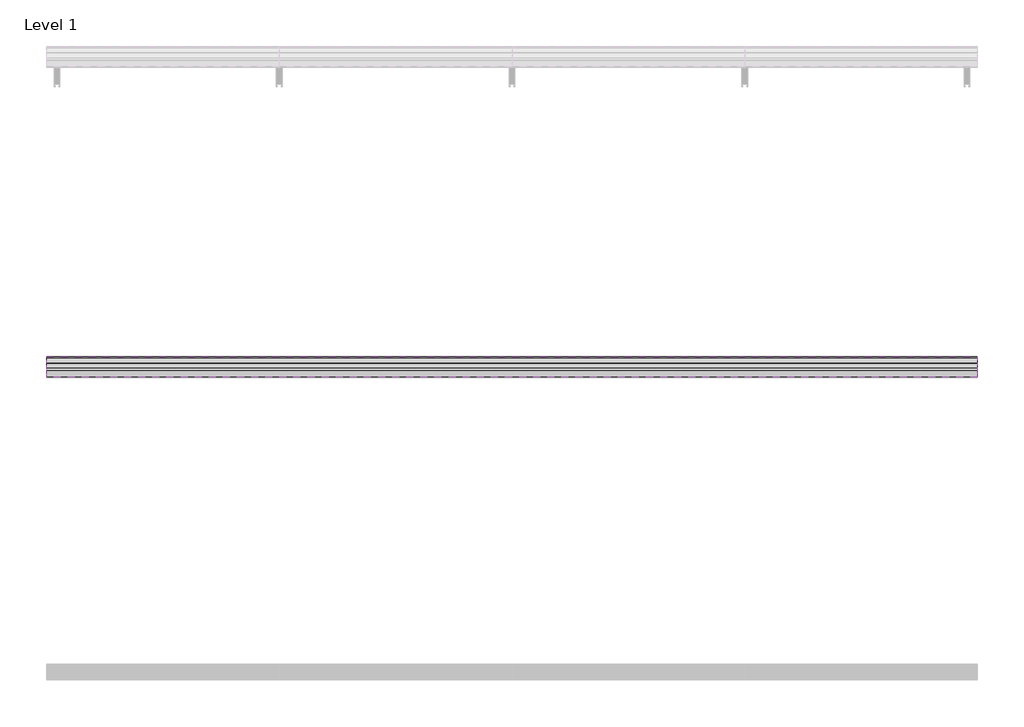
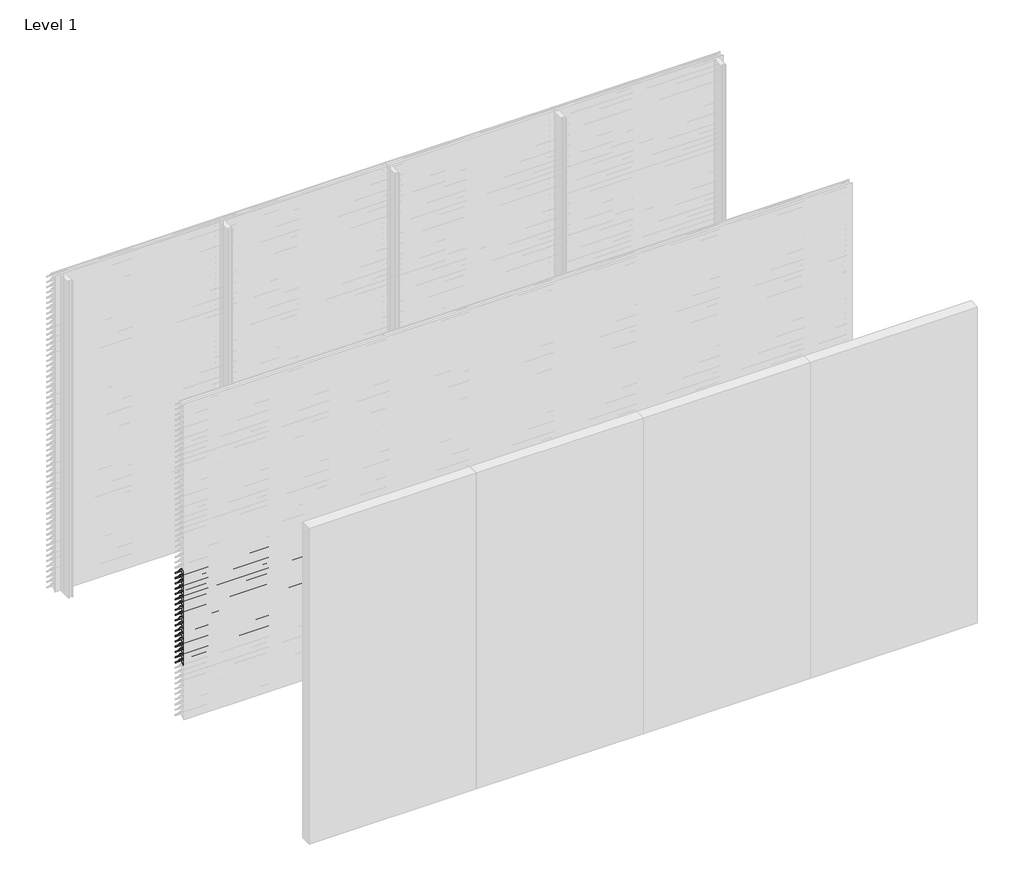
# One storey, part 22 of 173: 18 proxies.
"""IFC4 building model written with IfcOpenShell, lengths in millimetres."""

from ifc_helpers import new_model, si_unit, point, frame, frame_2d, origin, place, context, project, spatial, polyline, circle_curve, trimmed, segment, composite_curve, outline, extrude, element, save

model = new_model("IFC4")

# Units and contexts
model_context = context("Model", 3, world=origin())
ifc_project = project(units=[si_unit("LENGTHUNIT", "METRE", prefix="MILLI")], contexts=[model_context])

# Site, building, storey
site = spatial("IfcSite", under=ifc_project)
building = spatial("IfcBuilding", under=site)
storey = spatial("IfcBuildingStorey", under=building, Name="Level 1", Elevation=0.0)

# Proxies
placement = place(None, origin())
element("IfcBuildingElementProxy", 1, Name="Wall Sweeps", at=placement, inside=storey, context=model_context, shape_type="SweptSolid", body=[
    extrude(outline(composite_curve([segment(polyline([(-49998.0, 1359.1474905), (-49998.0, 1361.6227417)]), True, "CONTINUOUS"), segment(trimmed(circle_curve(frame_2d((-49951.2682172, 1316.2200208)), 65.1557103), [point((-49998.0, 1361.6227417))], [point((-49954.4014323, 1381.3003524))], False, "CARTESIAN"), True, "CONTINUOUS"), segment(polyline([(-49954.4014323, 1381.3003524), (-49934.8315836, 1381.3003524)]), True, "CONTINUOUS"), segment(trimmed(circle_curve(frame_2d((-49732.7329489, 1528.5533172)), 250.0545817), [point((-49934.8315836, 1381.3003524))], [point((-49941.4452143, 1390.8344583))], False, "CARTESIAN"), True, "CONTINUOUS"), segment(trimmed(circle_curve(frame_2d((-49953.2981792, 1385.1737835)), 13.1352966), [point((-49941.4452143, 1390.8344583))], [point((-49953.8171475, 1398.298824))], True, "CARTESIAN"), True, "CONTINUOUS"), segment(polyline([(-49953.8171475, 1398.298824), (-49953.8171475, 1400.0)]), True, "CONTINUOUS"), segment(trimmed(circle_curve(frame_2d((-49953.2981792, 1385.1737835)), 14.8352966), [point((-49953.8171475, 1400.0))], [point((-49939.9637661, 1391.6760487))], False, "CARTESIAN"), True, "CONTINUOUS"), segment(trimmed(circle_curve(frame_2d((-49732.7329489, 1528.5533172)), 248.3545817), [point((-49939.9637661, 1391.6760487))], [point((-49873.8787895, 1324.2059416))], True, "CARTESIAN"), True, "CONTINUOUS"), segment(trimmed(circle_curve(frame_2d((-49883.8147537, 1311.6649442)), 16.0), [point((-49873.8787895, 1324.2059416))], [point((-49867.8648347, 1310.4))], False, "CARTESIAN"), True, "CONTINUOUS"), segment(polyline([(-49867.8648347, 1310.4), (-49869.6712069, 1310.4)]), True, "CONTINUOUS"), segment(trimmed(circle_curve(frame_2d((-49883.8147537, 1311.6649442)), 14.2), [point((-49869.6712069, 1310.4))], [point((-49874.9518628, 1322.7594998))], True, "CARTESIAN"), True, "CONTINUOUS"), segment(trimmed(circle_curve(frame_2d((-49732.7329489, 1528.5533172)), 250.1545817), [point((-49874.9518628, 1322.7594998))], [point((-49933.7064024, 1379.6003524))], False, "CARTESIAN"), True, "CONTINUOUS"), segment(polyline([(-49933.7064024, 1379.6003524), (-49954.3602632, 1379.6003524)]), True, "CONTINUOUS"), segment(trimmed(circle_curve(frame_2d((-49951.2682172, 1316.2200208)), 63.4557103), [point((-49954.3602632, 1379.6003524))], [point((-49998.0, 1359.1474905))], True, "CARTESIAN"), True, "CONTINUOUS")], self_intersect=False)), frame((0.0, 0.0, 0.0), z_axis=(1.0, 0.0, 0.0), x_axis=(0.0, 1.0, 0.0)), (0.0, 0.0, 1.0), 6000.0),
])
element("IfcBuildingElementProxy", 2, Name="Wall Sweeps", at=placement, inside=storey, context=model_context, shape_type="SweptSolid", body=[
    extrude(outline(composite_curve([segment(polyline([(-49998.0, 1309.1474905), (-49998.0, 1311.6227417)]), True, "CONTINUOUS"), segment(trimmed(circle_curve(frame_2d((-49951.2682172, 1266.2200208)), 65.1557103), [point((-49998.0, 1311.6227417))], [point((-49954.4014323, 1331.3003524))], False, "CARTESIAN"), True, "CONTINUOUS"), segment(polyline([(-49954.4014323, 1331.3003524), (-49934.8315836, 1331.3003524)]), True, "CONTINUOUS"), segment(trimmed(circle_curve(frame_2d((-49732.7329489, 1478.5533172)), 250.0545817), [point((-49934.8315836, 1331.3003524))], [point((-49941.4452143, 1340.8344583))], False, "CARTESIAN"), True, "CONTINUOUS"), segment(trimmed(circle_curve(frame_2d((-49953.2981792, 1335.1737835)), 13.1352966), [point((-49941.4452143, 1340.8344583))], [point((-49953.8171475, 1348.298824))], True, "CARTESIAN"), True, "CONTINUOUS"), segment(polyline([(-49953.8171475, 1348.298824), (-49953.8171475, 1350.0)]), True, "CONTINUOUS"), segment(trimmed(circle_curve(frame_2d((-49953.2981792, 1335.1737835)), 14.8352966), [point((-49953.8171475, 1350.0))], [point((-49939.9637661, 1341.6760487))], False, "CARTESIAN"), True, "CONTINUOUS"), segment(trimmed(circle_curve(frame_2d((-49732.7329489, 1478.5533172)), 248.3545817), [point((-49939.9637661, 1341.6760487))], [point((-49873.8787895, 1274.2059416))], True, "CARTESIAN"), True, "CONTINUOUS"), segment(trimmed(circle_curve(frame_2d((-49883.8147537, 1261.6649442)), 16.0), [point((-49873.8787895, 1274.2059416))], [point((-49867.8648347, 1260.4))], False, "CARTESIAN"), True, "CONTINUOUS"), segment(polyline([(-49867.8648347, 1260.4), (-49869.6712069, 1260.4)]), True, "CONTINUOUS"), segment(trimmed(circle_curve(frame_2d((-49883.8147537, 1261.6649442)), 14.2), [point((-49869.6712069, 1260.4))], [point((-49874.9518628, 1272.7594998))], True, "CARTESIAN"), True, "CONTINUOUS"), segment(trimmed(circle_curve(frame_2d((-49732.7329489, 1478.5533172)), 250.1545817), [point((-49874.9518628, 1272.7594998))], [point((-49933.7064024, 1329.6003524))], False, "CARTESIAN"), True, "CONTINUOUS"), segment(polyline([(-49933.7064024, 1329.6003524), (-49954.3602632, 1329.6003524)]), True, "CONTINUOUS"), segment(trimmed(circle_curve(frame_2d((-49951.2682172, 1266.2200208)), 63.4557103), [point((-49954.3602632, 1329.6003524))], [point((-49998.0, 1309.1474905))], True, "CARTESIAN"), True, "CONTINUOUS")], self_intersect=False)), frame((0.0, 0.0, 0.0), z_axis=(1.0, 0.0, 0.0), x_axis=(0.0, 1.0, 0.0)), (0.0, 0.0, 1.0), 6000.0),
])
element("IfcBuildingElementProxy", 3, Name="Wall Sweeps", at=placement, inside=storey, context=model_context, shape_type="SweptSolid", body=[
    extrude(outline(composite_curve([segment(polyline([(-49998.0, 1259.1474905), (-49998.0, 1261.6227417)]), True, "CONTINUOUS"), segment(trimmed(circle_curve(frame_2d((-49951.2682172, 1216.2200208)), 65.1557103), [point((-49998.0, 1261.6227417))], [point((-49954.4014323, 1281.3003524))], False, "CARTESIAN"), True, "CONTINUOUS"), segment(polyline([(-49954.4014323, 1281.3003524), (-49934.8315836, 1281.3003524)]), True, "CONTINUOUS"), segment(trimmed(circle_curve(frame_2d((-49732.7329489, 1428.5533172)), 250.0545817), [point((-49934.8315836, 1281.3003524))], [point((-49941.4452143, 1290.8344583))], False, "CARTESIAN"), True, "CONTINUOUS"), segment(trimmed(circle_curve(frame_2d((-49953.2981792, 1285.1737835)), 13.1352966), [point((-49941.4452143, 1290.8344583))], [point((-49953.8171475, 1298.298824))], True, "CARTESIAN"), True, "CONTINUOUS"), segment(polyline([(-49953.8171475, 1298.298824), (-49953.8171475, 1300.0)]), True, "CONTINUOUS"), segment(trimmed(circle_curve(frame_2d((-49953.2981792, 1285.1737835)), 14.8352966), [point((-49953.8171475, 1300.0))], [point((-49939.9637661, 1291.6760487))], False, "CARTESIAN"), True, "CONTINUOUS"), segment(trimmed(circle_curve(frame_2d((-49732.7329489, 1428.5533172)), 248.3545817), [point((-49939.9637661, 1291.6760487))], [point((-49873.8787895, 1224.2059416))], True, "CARTESIAN"), True, "CONTINUOUS"), segment(trimmed(circle_curve(frame_2d((-49883.8147537, 1211.6649442)), 16.0), [point((-49873.8787895, 1224.2059416))], [point((-49867.8648347, 1210.4))], False, "CARTESIAN"), True, "CONTINUOUS"), segment(polyline([(-49867.8648347, 1210.4), (-49869.6712069, 1210.4)]), True, "CONTINUOUS"), segment(trimmed(circle_curve(frame_2d((-49883.8147537, 1211.6649442)), 14.2), [point((-49869.6712069, 1210.4))], [point((-49874.9518628, 1222.7594998))], True, "CARTESIAN"), True, "CONTINUOUS"), segment(trimmed(circle_curve(frame_2d((-49732.7329489, 1428.5533172)), 250.1545817), [point((-49874.9518628, 1222.7594998))], [point((-49933.7064024, 1279.6003524))], False, "CARTESIAN"), True, "CONTINUOUS"), segment(polyline([(-49933.7064024, 1279.6003524), (-49954.3602632, 1279.6003524)]), True, "CONTINUOUS"), segment(trimmed(circle_curve(frame_2d((-49951.2682172, 1216.2200208)), 63.4557103), [point((-49954.3602632, 1279.6003524))], [point((-49998.0, 1259.1474905))], True, "CARTESIAN"), True, "CONTINUOUS")], self_intersect=False)), frame((0.0, 0.0, 0.0), z_axis=(1.0, 0.0, 0.0), x_axis=(0.0, 1.0, 0.0)), (0.0, 0.0, 1.0), 6000.0),
])
element("IfcBuildingElementProxy", 4, Name="Wall Sweeps", at=placement, inside=storey, context=model_context, shape_type="SweptSolid", body=[
    extrude(outline(composite_curve([segment(polyline([(-49998.0, 1209.1474905), (-49998.0, 1211.6227417)]), True, "CONTINUOUS"), segment(trimmed(circle_curve(frame_2d((-49951.2682172, 1166.2200208)), 65.1557103), [point((-49998.0, 1211.6227417))], [point((-49954.4014323, 1231.3003524))], False, "CARTESIAN"), True, "CONTINUOUS"), segment(polyline([(-49954.4014323, 1231.3003524), (-49934.8315836, 1231.3003524)]), True, "CONTINUOUS"), segment(trimmed(circle_curve(frame_2d((-49732.7329489, 1378.5533172)), 250.0545817), [point((-49934.8315836, 1231.3003524))], [point((-49941.4452143, 1240.8344583))], False, "CARTESIAN"), True, "CONTINUOUS"), segment(trimmed(circle_curve(frame_2d((-49953.2981792, 1235.1737835)), 13.1352966), [point((-49941.4452143, 1240.8344583))], [point((-49953.8171475, 1248.298824))], True, "CARTESIAN"), True, "CONTINUOUS"), segment(polyline([(-49953.8171475, 1248.298824), (-49953.8171475, 1250.0)]), True, "CONTINUOUS"), segment(trimmed(circle_curve(frame_2d((-49953.2981792, 1235.1737835)), 14.8352966), [point((-49953.8171475, 1250.0))], [point((-49939.9637661, 1241.6760487))], False, "CARTESIAN"), True, "CONTINUOUS"), segment(trimmed(circle_curve(frame_2d((-49732.7329489, 1378.5533172)), 248.3545817), [point((-49939.9637661, 1241.6760487))], [point((-49873.8787895, 1174.2059416))], True, "CARTESIAN"), True, "CONTINUOUS"), segment(trimmed(circle_curve(frame_2d((-49883.8147537, 1161.6649442)), 16.0), [point((-49873.8787895, 1174.2059416))], [point((-49867.8648347, 1160.4))], False, "CARTESIAN"), True, "CONTINUOUS"), segment(polyline([(-49867.8648347, 1160.4), (-49869.6712069, 1160.4)]), True, "CONTINUOUS"), segment(trimmed(circle_curve(frame_2d((-49883.8147537, 1161.6649442)), 14.2), [point((-49869.6712069, 1160.4))], [point((-49874.9518628, 1172.7594998))], True, "CARTESIAN"), True, "CONTINUOUS"), segment(trimmed(circle_curve(frame_2d((-49732.7329489, 1378.5533172)), 250.1545817), [point((-49874.9518628, 1172.7594998))], [point((-49933.7064024, 1229.6003524))], False, "CARTESIAN"), True, "CONTINUOUS"), segment(polyline([(-49933.7064024, 1229.6003524), (-49954.3602632, 1229.6003524)]), True, "CONTINUOUS"), segment(trimmed(circle_curve(frame_2d((-49951.2682172, 1166.2200208)), 63.4557103), [point((-49954.3602632, 1229.6003524))], [point((-49998.0, 1209.1474905))], True, "CARTESIAN"), True, "CONTINUOUS")], self_intersect=False)), frame((0.0, 0.0, 0.0), z_axis=(1.0, 0.0, 0.0), x_axis=(0.0, 1.0, 0.0)), (0.0, 0.0, 1.0), 6000.0),
])
element("IfcBuildingElementProxy", 5, Name="Wall Sweeps", at=placement, inside=storey, context=model_context, shape_type="SweptSolid", body=[
    extrude(outline(composite_curve([segment(polyline([(-49998.0, 1159.1474905), (-49998.0, 1161.6227417)]), True, "CONTINUOUS"), segment(trimmed(circle_curve(frame_2d((-49951.2682172, 1116.2200208)), 65.1557103), [point((-49998.0, 1161.6227417))], [point((-49954.4014323, 1181.3003524))], False, "CARTESIAN"), True, "CONTINUOUS"), segment(polyline([(-49954.4014323, 1181.3003524), (-49934.8315836, 1181.3003524)]), True, "CONTINUOUS"), segment(trimmed(circle_curve(frame_2d((-49732.7329489, 1328.5533172)), 250.0545817), [point((-49934.8315836, 1181.3003524))], [point((-49941.4452143, 1190.8344583))], False, "CARTESIAN"), True, "CONTINUOUS"), segment(trimmed(circle_curve(frame_2d((-49953.2981792, 1185.1737835)), 13.1352966), [point((-49941.4452143, 1190.8344583))], [point((-49953.8171475, 1198.298824))], True, "CARTESIAN"), True, "CONTINUOUS"), segment(polyline([(-49953.8171475, 1198.298824), (-49953.8171475, 1200.0)]), True, "CONTINUOUS"), segment(trimmed(circle_curve(frame_2d((-49953.2981792, 1185.1737835)), 14.8352966), [point((-49953.8171475, 1200.0))], [point((-49939.9637661, 1191.6760487))], False, "CARTESIAN"), True, "CONTINUOUS"), segment(trimmed(circle_curve(frame_2d((-49732.7329489, 1328.5533172)), 248.3545817), [point((-49939.9637661, 1191.6760487))], [point((-49873.8787895, 1124.2059416))], True, "CARTESIAN"), True, "CONTINUOUS"), segment(trimmed(circle_curve(frame_2d((-49883.8147537, 1111.6649442)), 16.0), [point((-49873.8787895, 1124.2059416))], [point((-49867.8648347, 1110.4))], False, "CARTESIAN"), True, "CONTINUOUS"), segment(polyline([(-49867.8648347, 1110.4), (-49869.6712069, 1110.4)]), True, "CONTINUOUS"), segment(trimmed(circle_curve(frame_2d((-49883.8147537, 1111.6649442)), 14.2), [point((-49869.6712069, 1110.4))], [point((-49874.9518628, 1122.7594998))], True, "CARTESIAN"), True, "CONTINUOUS"), segment(trimmed(circle_curve(frame_2d((-49732.7329489, 1328.5533172)), 250.1545817), [point((-49874.9518628, 1122.7594998))], [point((-49933.7064024, 1179.6003524))], False, "CARTESIAN"), True, "CONTINUOUS"), segment(polyline([(-49933.7064024, 1179.6003524), (-49954.3602632, 1179.6003524)]), True, "CONTINUOUS"), segment(trimmed(circle_curve(frame_2d((-49951.2682172, 1116.2200208)), 63.4557103), [point((-49954.3602632, 1179.6003524))], [point((-49998.0, 1159.1474905))], True, "CARTESIAN"), True, "CONTINUOUS")], self_intersect=False)), frame((0.0, 0.0, 0.0), z_axis=(1.0, 0.0, 0.0), x_axis=(0.0, 1.0, 0.0)), (0.0, 0.0, 1.0), 6000.0),
])
element("IfcBuildingElementProxy", 6, Name="Wall Sweeps", at=placement, inside=storey, context=model_context, shape_type="SweptSolid", body=[
    extrude(outline(composite_curve([segment(polyline([(-49998.0, 1109.1474905), (-49998.0, 1111.6227417)]), True, "CONTINUOUS"), segment(trimmed(circle_curve(frame_2d((-49951.2682172, 1066.2200208)), 65.1557103), [point((-49998.0, 1111.6227417))], [point((-49954.4014323, 1131.3003524))], False, "CARTESIAN"), True, "CONTINUOUS"), segment(polyline([(-49954.4014323, 1131.3003524), (-49934.8315836, 1131.3003524)]), True, "CONTINUOUS"), segment(trimmed(circle_curve(frame_2d((-49732.7329489, 1278.5533172)), 250.0545817), [point((-49934.8315836, 1131.3003524))], [point((-49941.4452143, 1140.8344583))], False, "CARTESIAN"), True, "CONTINUOUS"), segment(trimmed(circle_curve(frame_2d((-49953.2981792, 1135.1737835)), 13.1352966), [point((-49941.4452143, 1140.8344583))], [point((-49953.8171475, 1148.298824))], True, "CARTESIAN"), True, "CONTINUOUS"), segment(polyline([(-49953.8171475, 1148.298824), (-49953.8171475, 1150.0)]), True, "CONTINUOUS"), segment(trimmed(circle_curve(frame_2d((-49953.2981792, 1135.1737835)), 14.8352966), [point((-49953.8171475, 1150.0))], [point((-49939.9637661, 1141.6760487))], False, "CARTESIAN"), True, "CONTINUOUS"), segment(trimmed(circle_curve(frame_2d((-49732.7329489, 1278.5533172)), 248.3545817), [point((-49939.9637661, 1141.6760487))], [point((-49873.8787895, 1074.2059416))], True, "CARTESIAN"), True, "CONTINUOUS"), segment(trimmed(circle_curve(frame_2d((-49883.8147537, 1061.6649442)), 16.0), [point((-49873.8787895, 1074.2059416))], [point((-49867.8648347, 1060.4))], False, "CARTESIAN"), True, "CONTINUOUS"), segment(polyline([(-49867.8648347, 1060.4), (-49869.6712069, 1060.4)]), True, "CONTINUOUS"), segment(trimmed(circle_curve(frame_2d((-49883.8147537, 1061.6649442)), 14.2), [point((-49869.6712069, 1060.4))], [point((-49874.9518628, 1072.7594998))], True, "CARTESIAN"), True, "CONTINUOUS"), segment(trimmed(circle_curve(frame_2d((-49732.7329489, 1278.5533172)), 250.1545817), [point((-49874.9518628, 1072.7594998))], [point((-49933.7064024, 1129.6003524))], False, "CARTESIAN"), True, "CONTINUOUS"), segment(polyline([(-49933.7064024, 1129.6003524), (-49954.3602632, 1129.6003524)]), True, "CONTINUOUS"), segment(trimmed(circle_curve(frame_2d((-49951.2682172, 1066.2200208)), 63.4557103), [point((-49954.3602632, 1129.6003524))], [point((-49998.0, 1109.1474905))], True, "CARTESIAN"), True, "CONTINUOUS")], self_intersect=False)), frame((0.0, 0.0, 0.0), z_axis=(1.0, 0.0, 0.0), x_axis=(0.0, 1.0, 0.0)), (0.0, 0.0, 1.0), 6000.0),
])
element("IfcBuildingElementProxy", 7, Name="Wall Sweeps", at=placement, inside=storey, context=model_context, shape_type="SweptSolid", body=[
    extrude(outline(composite_curve([segment(polyline([(-49998.0, 1059.1474905), (-49998.0, 1061.6227417)]), True, "CONTINUOUS"), segment(trimmed(circle_curve(frame_2d((-49951.2682172, 1016.2200208)), 65.1557103), [point((-49998.0, 1061.6227417))], [point((-49954.4014323, 1081.3003524))], False, "CARTESIAN"), True, "CONTINUOUS"), segment(polyline([(-49954.4014323, 1081.3003524), (-49934.8315836, 1081.3003524)]), True, "CONTINUOUS"), segment(trimmed(circle_curve(frame_2d((-49732.7329489, 1228.5533172)), 250.0545817), [point((-49934.8315836, 1081.3003524))], [point((-49941.4452143, 1090.8344583))], False, "CARTESIAN"), True, "CONTINUOUS"), segment(trimmed(circle_curve(frame_2d((-49953.2981792, 1085.1737835)), 13.1352966), [point((-49941.4452143, 1090.8344583))], [point((-49953.8171475, 1098.298824))], True, "CARTESIAN"), True, "CONTINUOUS"), segment(polyline([(-49953.8171475, 1098.298824), (-49953.8171475, 1100.0)]), True, "CONTINUOUS"), segment(trimmed(circle_curve(frame_2d((-49953.2981792, 1085.1737835)), 14.8352966), [point((-49953.8171475, 1100.0))], [point((-49939.9637661, 1091.6760487))], False, "CARTESIAN"), True, "CONTINUOUS"), segment(trimmed(circle_curve(frame_2d((-49732.7329489, 1228.5533172)), 248.3545817), [point((-49939.9637661, 1091.6760487))], [point((-49873.8787895, 1024.2059416))], True, "CARTESIAN"), True, "CONTINUOUS"), segment(trimmed(circle_curve(frame_2d((-49883.8147537, 1011.6649442)), 16.0), [point((-49873.8787895, 1024.2059416))], [point((-49867.8648347, 1010.4))], False, "CARTESIAN"), True, "CONTINUOUS"), segment(polyline([(-49867.8648347, 1010.4), (-49869.6712069, 1010.4)]), True, "CONTINUOUS"), segment(trimmed(circle_curve(frame_2d((-49883.8147537, 1011.6649442)), 14.2), [point((-49869.6712069, 1010.4))], [point((-49874.9518628, 1022.7594998))], True, "CARTESIAN"), True, "CONTINUOUS"), segment(trimmed(circle_curve(frame_2d((-49732.7329489, 1228.5533172)), 250.1545817), [point((-49874.9518628, 1022.7594998))], [point((-49933.7064024, 1079.6003524))], False, "CARTESIAN"), True, "CONTINUOUS"), segment(polyline([(-49933.7064024, 1079.6003524), (-49954.3602632, 1079.6003524)]), True, "CONTINUOUS"), segment(trimmed(circle_curve(frame_2d((-49951.2682172, 1016.2200208)), 63.4557103), [point((-49954.3602632, 1079.6003524))], [point((-49998.0, 1059.1474905))], True, "CARTESIAN"), True, "CONTINUOUS")], self_intersect=False)), frame((0.0, 0.0, 0.0), z_axis=(1.0, 0.0, 0.0), x_axis=(0.0, 1.0, 0.0)), (0.0, 0.0, 1.0), 6000.0),
])
element("IfcBuildingElementProxy", 8, Name="Wall Sweeps", at=placement, inside=storey, context=model_context, shape_type="SweptSolid", body=[
    extrude(outline(composite_curve([segment(polyline([(-49998.0, 1009.1474905), (-49998.0, 1011.6227417)]), True, "CONTINUOUS"), segment(trimmed(circle_curve(frame_2d((-49951.2682172, 966.2200208)), 65.1557103), [point((-49998.0, 1011.6227417))], [point((-49954.4014323, 1031.3003524))], False, "CARTESIAN"), True, "CONTINUOUS"), segment(polyline([(-49954.4014323, 1031.3003524), (-49934.8315836, 1031.3003524)]), True, "CONTINUOUS"), segment(trimmed(circle_curve(frame_2d((-49732.7329489, 1178.5533172)), 250.0545817), [point((-49934.8315836, 1031.3003524))], [point((-49941.4452143, 1040.8344583))], False, "CARTESIAN"), True, "CONTINUOUS"), segment(trimmed(circle_curve(frame_2d((-49953.2981792, 1035.1737835)), 13.1352966), [point((-49941.4452143, 1040.8344583))], [point((-49953.8171475, 1048.298824))], True, "CARTESIAN"), True, "CONTINUOUS"), segment(polyline([(-49953.8171475, 1048.298824), (-49953.8171475, 1050.0)]), True, "CONTINUOUS"), segment(trimmed(circle_curve(frame_2d((-49953.2981792, 1035.1737835)), 14.8352966), [point((-49953.8171475, 1050.0))], [point((-49939.9637661, 1041.6760487))], False, "CARTESIAN"), True, "CONTINUOUS"), segment(trimmed(circle_curve(frame_2d((-49732.7329489, 1178.5533172)), 248.3545817), [point((-49939.9637661, 1041.6760487))], [point((-49873.8787895, 974.2059416))], True, "CARTESIAN"), True, "CONTINUOUS"), segment(trimmed(circle_curve(frame_2d((-49883.8147537, 961.6649442)), 16.0), [point((-49873.8787895, 974.2059416))], [point((-49867.8648347, 960.4))], False, "CARTESIAN"), True, "CONTINUOUS"), segment(polyline([(-49867.8648347, 960.4), (-49869.6712069, 960.4)]), True, "CONTINUOUS"), segment(trimmed(circle_curve(frame_2d((-49883.8147537, 961.6649442)), 14.2), [point((-49869.6712069, 960.4))], [point((-49874.9518628, 972.7594998))], True, "CARTESIAN"), True, "CONTINUOUS"), segment(trimmed(circle_curve(frame_2d((-49732.7329489, 1178.5533172)), 250.1545817), [point((-49874.9518628, 972.7594998))], [point((-49933.7064024, 1029.6003524))], False, "CARTESIAN"), True, "CONTINUOUS"), segment(polyline([(-49933.7064024, 1029.6003524), (-49954.3602632, 1029.6003524)]), True, "CONTINUOUS"), segment(trimmed(circle_curve(frame_2d((-49951.2682172, 966.2200208)), 63.4557103), [point((-49954.3602632, 1029.6003524))], [point((-49998.0, 1009.1474905))], True, "CARTESIAN"), True, "CONTINUOUS")], self_intersect=False)), frame((0.0, 0.0, 0.0), z_axis=(1.0, 0.0, 0.0), x_axis=(0.0, 1.0, 0.0)), (0.0, 0.0, 1.0), 6000.0),
])
element("IfcBuildingElementProxy", 9, Name="Wall Sweeps", at=placement, inside=storey, context=model_context, shape_type="SweptSolid", body=[
    extrude(outline(composite_curve([segment(polyline([(-49998.0, 959.1474905), (-49998.0, 961.6227417)]), True, "CONTINUOUS"), segment(trimmed(circle_curve(frame_2d((-49951.2682172, 916.2200208)), 65.1557103), [point((-49998.0, 961.6227417))], [point((-49954.4014323, 981.3003524))], False, "CARTESIAN"), True, "CONTINUOUS"), segment(polyline([(-49954.4014323, 981.3003524), (-49934.8315836, 981.3003524)]), True, "CONTINUOUS"), segment(trimmed(circle_curve(frame_2d((-49732.7329489, 1128.5533172)), 250.0545817), [point((-49934.8315836, 981.3003524))], [point((-49941.4452143, 990.8344583))], False, "CARTESIAN"), True, "CONTINUOUS"), segment(trimmed(circle_curve(frame_2d((-49953.2981792, 985.1737835)), 13.1352966), [point((-49941.4452143, 990.8344583))], [point((-49953.8171475, 998.298824))], True, "CARTESIAN"), True, "CONTINUOUS"), segment(polyline([(-49953.8171475, 998.298824), (-49953.8171475, 1000.0)]), True, "CONTINUOUS"), segment(trimmed(circle_curve(frame_2d((-49953.2981792, 985.1737835)), 14.8352966), [point((-49953.8171475, 1000.0))], [point((-49939.9637661, 991.6760487))], False, "CARTESIAN"), True, "CONTINUOUS"), segment(trimmed(circle_curve(frame_2d((-49732.7329489, 1128.5533172)), 248.3545817), [point((-49939.9637661, 991.6760487))], [point((-49873.8787895, 924.2059416))], True, "CARTESIAN"), True, "CONTINUOUS"), segment(trimmed(circle_curve(frame_2d((-49883.8147537, 911.6649442)), 16.0), [point((-49873.8787895, 924.2059416))], [point((-49867.8648347, 910.4))], False, "CARTESIAN"), True, "CONTINUOUS"), segment(polyline([(-49867.8648347, 910.4), (-49869.6712069, 910.4)]), True, "CONTINUOUS"), segment(trimmed(circle_curve(frame_2d((-49883.8147537, 911.6649442)), 14.2), [point((-49869.6712069, 910.4))], [point((-49874.9518628, 922.7594998))], True, "CARTESIAN"), True, "CONTINUOUS"), segment(trimmed(circle_curve(frame_2d((-49732.7329489, 1128.5533172)), 250.1545817), [point((-49874.9518628, 922.7594998))], [point((-49933.7064024, 979.6003524))], False, "CARTESIAN"), True, "CONTINUOUS"), segment(polyline([(-49933.7064024, 979.6003524), (-49954.3602632, 979.6003524)]), True, "CONTINUOUS"), segment(trimmed(circle_curve(frame_2d((-49951.2682172, 916.2200208)), 63.4557103), [point((-49954.3602632, 979.6003524))], [point((-49998.0, 959.1474905))], True, "CARTESIAN"), True, "CONTINUOUS")], self_intersect=False)), frame((0.0, 0.0, 0.0), z_axis=(1.0, 0.0, 0.0), x_axis=(0.0, 1.0, 0.0)), (0.0, 0.0, 1.0), 6000.0),
])
element("IfcBuildingElementProxy", 10, Name="Wall Sweeps", at=placement, inside=storey, context=model_context, shape_type="SweptSolid", body=[
    extrude(outline(composite_curve([segment(polyline([(-49998.0, 909.1474905), (-49998.0, 911.6227417)]), True, "CONTINUOUS"), segment(trimmed(circle_curve(frame_2d((-49951.2682172, 866.2200208)), 65.1557103), [point((-49998.0, 911.6227417))], [point((-49954.4014323, 931.3003524))], False, "CARTESIAN"), True, "CONTINUOUS"), segment(polyline([(-49954.4014323, 931.3003524), (-49934.8315836, 931.3003524)]), True, "CONTINUOUS"), segment(trimmed(circle_curve(frame_2d((-49732.7329489, 1078.5533172)), 250.0545817), [point((-49934.8315836, 931.3003524))], [point((-49941.4452143, 940.8344583))], False, "CARTESIAN"), True, "CONTINUOUS"), segment(trimmed(circle_curve(frame_2d((-49953.2981792, 935.1737835)), 13.1352966), [point((-49941.4452143, 940.8344583))], [point((-49953.8171475, 948.298824))], True, "CARTESIAN"), True, "CONTINUOUS"), segment(polyline([(-49953.8171475, 948.298824), (-49953.8171475, 950.0)]), True, "CONTINUOUS"), segment(trimmed(circle_curve(frame_2d((-49953.2981792, 935.1737835)), 14.8352966), [point((-49953.8171475, 950.0))], [point((-49939.9637661, 941.6760487))], False, "CARTESIAN"), True, "CONTINUOUS"), segment(trimmed(circle_curve(frame_2d((-49732.7329489, 1078.5533172)), 248.3545817), [point((-49939.9637661, 941.6760487))], [point((-49873.8787895, 874.2059416))], True, "CARTESIAN"), True, "CONTINUOUS"), segment(trimmed(circle_curve(frame_2d((-49883.8147537, 861.6649442)), 16.0), [point((-49873.8787895, 874.2059416))], [point((-49867.8648347, 860.4))], False, "CARTESIAN"), True, "CONTINUOUS"), segment(polyline([(-49867.8648347, 860.4), (-49869.6712069, 860.4)]), True, "CONTINUOUS"), segment(trimmed(circle_curve(frame_2d((-49883.8147537, 861.6649442)), 14.2), [point((-49869.6712069, 860.4))], [point((-49874.9518628, 872.7594998))], True, "CARTESIAN"), True, "CONTINUOUS"), segment(trimmed(circle_curve(frame_2d((-49732.7329489, 1078.5533172)), 250.1545817), [point((-49874.9518628, 872.7594998))], [point((-49933.7064024, 929.6003524))], False, "CARTESIAN"), True, "CONTINUOUS"), segment(polyline([(-49933.7064024, 929.6003524), (-49954.3602632, 929.6003524)]), True, "CONTINUOUS"), segment(trimmed(circle_curve(frame_2d((-49951.2682172, 866.2200208)), 63.4557103), [point((-49954.3602632, 929.6003524))], [point((-49998.0, 909.1474905))], True, "CARTESIAN"), True, "CONTINUOUS")], self_intersect=False)), frame((0.0, 0.0, 0.0), z_axis=(1.0, 0.0, 0.0), x_axis=(0.0, 1.0, 0.0)), (0.0, 0.0, 1.0), 6000.0),
])
element("IfcBuildingElementProxy", 11, Name="Wall Sweeps", at=placement, inside=storey, context=model_context, shape_type="SweptSolid", body=[
    extrude(outline(composite_curve([segment(polyline([(-49998.0, 859.1474905), (-49998.0, 861.6227417)]), True, "CONTINUOUS"), segment(trimmed(circle_curve(frame_2d((-49951.2682172, 816.2200208)), 65.1557103), [point((-49998.0, 861.6227417))], [point((-49954.4014323, 881.3003524))], False, "CARTESIAN"), True, "CONTINUOUS"), segment(polyline([(-49954.4014323, 881.3003524), (-49934.8315836, 881.3003524)]), True, "CONTINUOUS"), segment(trimmed(circle_curve(frame_2d((-49732.7329489, 1028.5533172)), 250.0545817), [point((-49934.8315836, 881.3003524))], [point((-49941.4452143, 890.8344583))], False, "CARTESIAN"), True, "CONTINUOUS"), segment(trimmed(circle_curve(frame_2d((-49953.2981792, 885.1737835)), 13.1352966), [point((-49941.4452143, 890.8344583))], [point((-49953.8171475, 898.298824))], True, "CARTESIAN"), True, "CONTINUOUS"), segment(polyline([(-49953.8171475, 898.298824), (-49953.8171475, 900.0)]), True, "CONTINUOUS"), segment(trimmed(circle_curve(frame_2d((-49953.2981792, 885.1737835)), 14.8352966), [point((-49953.8171475, 900.0))], [point((-49939.9637661, 891.6760487))], False, "CARTESIAN"), True, "CONTINUOUS"), segment(trimmed(circle_curve(frame_2d((-49732.7329489, 1028.5533172)), 248.3545817), [point((-49939.9637661, 891.6760487))], [point((-49873.8787895, 824.2059416))], True, "CARTESIAN"), True, "CONTINUOUS"), segment(trimmed(circle_curve(frame_2d((-49883.8147537, 811.6649442)), 16.0), [point((-49873.8787895, 824.2059416))], [point((-49867.8648347, 810.4))], False, "CARTESIAN"), True, "CONTINUOUS"), segment(polyline([(-49867.8648347, 810.4), (-49869.6712069, 810.4)]), True, "CONTINUOUS"), segment(trimmed(circle_curve(frame_2d((-49883.8147537, 811.6649442)), 14.2), [point((-49869.6712069, 810.4))], [point((-49874.9518628, 822.7594998))], True, "CARTESIAN"), True, "CONTINUOUS"), segment(trimmed(circle_curve(frame_2d((-49732.7329489, 1028.5533172)), 250.1545817), [point((-49874.9518628, 822.7594998))], [point((-49933.7064024, 879.6003524))], False, "CARTESIAN"), True, "CONTINUOUS"), segment(polyline([(-49933.7064024, 879.6003524), (-49954.3602632, 879.6003524)]), True, "CONTINUOUS"), segment(trimmed(circle_curve(frame_2d((-49951.2682172, 816.2200208)), 63.4557103), [point((-49954.3602632, 879.6003524))], [point((-49998.0, 859.1474905))], True, "CARTESIAN"), True, "CONTINUOUS")], self_intersect=False)), frame((0.0, 0.0, 0.0), z_axis=(1.0, 0.0, 0.0), x_axis=(0.0, 1.0, 0.0)), (0.0, 0.0, 1.0), 6000.0),
])
element("IfcBuildingElementProxy", 12, Name="Wall Sweeps", at=placement, inside=storey, context=model_context, shape_type="SweptSolid", body=[
    extrude(outline(composite_curve([segment(polyline([(-49998.0, 809.1474905), (-49998.0, 811.6227417)]), True, "CONTINUOUS"), segment(trimmed(circle_curve(frame_2d((-49951.2682172, 766.2200208)), 65.1557103), [point((-49998.0, 811.6227417))], [point((-49954.4014323, 831.3003524))], False, "CARTESIAN"), True, "CONTINUOUS"), segment(polyline([(-49954.4014323, 831.3003524), (-49934.8315836, 831.3003524)]), True, "CONTINUOUS"), segment(trimmed(circle_curve(frame_2d((-49732.7329489, 978.5533172)), 250.0545817), [point((-49934.8315836, 831.3003524))], [point((-49941.4452143, 840.8344583))], False, "CARTESIAN"), True, "CONTINUOUS"), segment(trimmed(circle_curve(frame_2d((-49953.2981792, 835.1737835)), 13.1352966), [point((-49941.4452143, 840.8344583))], [point((-49953.8171475, 848.298824))], True, "CARTESIAN"), True, "CONTINUOUS"), segment(polyline([(-49953.8171475, 848.298824), (-49953.8171475, 850.0)]), True, "CONTINUOUS"), segment(trimmed(circle_curve(frame_2d((-49953.2981792, 835.1737835)), 14.8352966), [point((-49953.8171475, 850.0))], [point((-49939.9637661, 841.6760487))], False, "CARTESIAN"), True, "CONTINUOUS"), segment(trimmed(circle_curve(frame_2d((-49732.7329489, 978.5533172)), 248.3545817), [point((-49939.9637661, 841.6760487))], [point((-49873.8787895, 774.2059416))], True, "CARTESIAN"), True, "CONTINUOUS"), segment(trimmed(circle_curve(frame_2d((-49883.8147537, 761.6649442)), 16.0), [point((-49873.8787895, 774.2059416))], [point((-49867.8648347, 760.4))], False, "CARTESIAN"), True, "CONTINUOUS"), segment(polyline([(-49867.8648347, 760.4), (-49869.6712069, 760.4)]), True, "CONTINUOUS"), segment(trimmed(circle_curve(frame_2d((-49883.8147537, 761.6649442)), 14.2), [point((-49869.6712069, 760.4))], [point((-49874.9518628, 772.7594998))], True, "CARTESIAN"), True, "CONTINUOUS"), segment(trimmed(circle_curve(frame_2d((-49732.7329489, 978.5533172)), 250.1545817), [point((-49874.9518628, 772.7594998))], [point((-49933.7064024, 829.6003524))], False, "CARTESIAN"), True, "CONTINUOUS"), segment(polyline([(-49933.7064024, 829.6003524), (-49954.3602632, 829.6003524)]), True, "CONTINUOUS"), segment(trimmed(circle_curve(frame_2d((-49951.2682172, 766.2200208)), 63.4557103), [point((-49954.3602632, 829.6003524))], [point((-49998.0, 809.1474905))], True, "CARTESIAN"), True, "CONTINUOUS")], self_intersect=False)), frame((0.0, 0.0, 0.0), z_axis=(1.0, 0.0, 0.0), x_axis=(0.0, 1.0, 0.0)), (0.0, 0.0, 1.0), 6000.0),
])
element("IfcBuildingElementProxy", 13, Name="Wall Sweeps", at=placement, inside=storey, context=model_context, shape_type="SweptSolid", body=[
    extrude(outline(composite_curve([segment(polyline([(-49998.0, 759.1474905), (-49998.0, 761.6227417)]), True, "CONTINUOUS"), segment(trimmed(circle_curve(frame_2d((-49951.2682172, 716.2200208)), 65.1557103), [point((-49998.0, 761.6227417))], [point((-49954.4014323, 781.3003524))], False, "CARTESIAN"), True, "CONTINUOUS"), segment(polyline([(-49954.4014323, 781.3003524), (-49934.8315836, 781.3003524)]), True, "CONTINUOUS"), segment(trimmed(circle_curve(frame_2d((-49732.7329489, 928.5533172)), 250.0545817), [point((-49934.8315836, 781.3003524))], [point((-49941.4452143, 790.8344583))], False, "CARTESIAN"), True, "CONTINUOUS"), segment(trimmed(circle_curve(frame_2d((-49953.2981792, 785.1737835)), 13.1352966), [point((-49941.4452143, 790.8344583))], [point((-49953.8171475, 798.298824))], True, "CARTESIAN"), True, "CONTINUOUS"), segment(polyline([(-49953.8171475, 798.298824), (-49953.8171475, 800.0)]), True, "CONTINUOUS"), segment(trimmed(circle_curve(frame_2d((-49953.2981792, 785.1737835)), 14.8352966), [point((-49953.8171475, 800.0))], [point((-49939.9637661, 791.6760487))], False, "CARTESIAN"), True, "CONTINUOUS"), segment(trimmed(circle_curve(frame_2d((-49732.7329489, 928.5533172)), 248.3545817), [point((-49939.9637661, 791.6760487))], [point((-49873.8787895, 724.2059416))], True, "CARTESIAN"), True, "CONTINUOUS"), segment(trimmed(circle_curve(frame_2d((-49883.8147537, 711.6649442)), 16.0), [point((-49873.8787895, 724.2059416))], [point((-49867.8648347, 710.4))], False, "CARTESIAN"), True, "CONTINUOUS"), segment(polyline([(-49867.8648347, 710.4), (-49869.6712069, 710.4)]), True, "CONTINUOUS"), segment(trimmed(circle_curve(frame_2d((-49883.8147537, 711.6649442)), 14.2), [point((-49869.6712069, 710.4))], [point((-49874.9518628, 722.7594998))], True, "CARTESIAN"), True, "CONTINUOUS"), segment(trimmed(circle_curve(frame_2d((-49732.7329489, 928.5533172)), 250.1545817), [point((-49874.9518628, 722.7594998))], [point((-49933.7064024, 779.6003524))], False, "CARTESIAN"), True, "CONTINUOUS"), segment(polyline([(-49933.7064024, 779.6003524), (-49954.3602632, 779.6003524)]), True, "CONTINUOUS"), segment(trimmed(circle_curve(frame_2d((-49951.2682172, 716.2200208)), 63.4557103), [point((-49954.3602632, 779.6003524))], [point((-49998.0, 759.1474905))], True, "CARTESIAN"), True, "CONTINUOUS")], self_intersect=False)), frame((0.0, 0.0, 0.0), z_axis=(1.0, 0.0, 0.0), x_axis=(0.0, 1.0, 0.0)), (0.0, 0.0, 1.0), 6000.0),
])
element("IfcBuildingElementProxy", 14, Name="Wall Sweeps", at=placement, inside=storey, context=model_context, shape_type="SweptSolid", body=[
    extrude(outline(composite_curve([segment(polyline([(-49998.0, 709.1474905), (-49998.0, 711.6227417)]), True, "CONTINUOUS"), segment(trimmed(circle_curve(frame_2d((-49951.2682172, 666.2200208)), 65.1557103), [point((-49998.0, 711.6227417))], [point((-49954.4014323, 731.3003524))], False, "CARTESIAN"), True, "CONTINUOUS"), segment(polyline([(-49954.4014323, 731.3003524), (-49934.8315836, 731.3003524)]), True, "CONTINUOUS"), segment(trimmed(circle_curve(frame_2d((-49732.7329489, 878.5533172)), 250.0545817), [point((-49934.8315836, 731.3003524))], [point((-49941.4452143, 740.8344583))], False, "CARTESIAN"), True, "CONTINUOUS"), segment(trimmed(circle_curve(frame_2d((-49953.2981792, 735.1737835)), 13.1352966), [point((-49941.4452143, 740.8344583))], [point((-49953.8171475, 748.298824))], True, "CARTESIAN"), True, "CONTINUOUS"), segment(polyline([(-49953.8171475, 748.298824), (-49953.8171475, 750.0)]), True, "CONTINUOUS"), segment(trimmed(circle_curve(frame_2d((-49953.2981792, 735.1737835)), 14.8352966), [point((-49953.8171475, 750.0))], [point((-49939.9637661, 741.6760487))], False, "CARTESIAN"), True, "CONTINUOUS"), segment(trimmed(circle_curve(frame_2d((-49732.7329489, 878.5533172)), 248.3545817), [point((-49939.9637661, 741.6760487))], [point((-49873.8787895, 674.2059416))], True, "CARTESIAN"), True, "CONTINUOUS"), segment(trimmed(circle_curve(frame_2d((-49883.8147537, 661.6649442)), 16.0), [point((-49873.8787895, 674.2059416))], [point((-49867.8648347, 660.4))], False, "CARTESIAN"), True, "CONTINUOUS"), segment(polyline([(-49867.8648347, 660.4), (-49869.6712069, 660.4)]), True, "CONTINUOUS"), segment(trimmed(circle_curve(frame_2d((-49883.8147537, 661.6649442)), 14.2), [point((-49869.6712069, 660.4))], [point((-49874.9518628, 672.7594998))], True, "CARTESIAN"), True, "CONTINUOUS"), segment(trimmed(circle_curve(frame_2d((-49732.7329489, 878.5533172)), 250.1545817), [point((-49874.9518628, 672.7594998))], [point((-49933.7064024, 729.6003524))], False, "CARTESIAN"), True, "CONTINUOUS"), segment(polyline([(-49933.7064024, 729.6003524), (-49954.3602632, 729.6003524)]), True, "CONTINUOUS"), segment(trimmed(circle_curve(frame_2d((-49951.2682172, 666.2200208)), 63.4557103), [point((-49954.3602632, 729.6003524))], [point((-49998.0, 709.1474905))], True, "CARTESIAN"), True, "CONTINUOUS")], self_intersect=False)), frame((0.0, 0.0, 0.0), z_axis=(1.0, 0.0, 0.0), x_axis=(0.0, 1.0, 0.0)), (0.0, 0.0, 1.0), 6000.0),
])
element("IfcBuildingElementProxy", 15, Name="Wall Sweeps", at=placement, inside=storey, context=model_context, shape_type="SweptSolid", body=[
    extrude(outline(composite_curve([segment(polyline([(-49998.0, 659.1474905), (-49998.0, 661.6227417)]), True, "CONTINUOUS"), segment(trimmed(circle_curve(frame_2d((-49951.2682172, 616.2200208)), 65.1557103), [point((-49998.0, 661.6227417))], [point((-49954.4014323, 681.3003524))], False, "CARTESIAN"), True, "CONTINUOUS"), segment(polyline([(-49954.4014323, 681.3003524), (-49934.8315836, 681.3003524)]), True, "CONTINUOUS"), segment(trimmed(circle_curve(frame_2d((-49732.7329489, 828.5533172)), 250.0545817), [point((-49934.8315836, 681.3003524))], [point((-49941.4452143, 690.8344583))], False, "CARTESIAN"), True, "CONTINUOUS"), segment(trimmed(circle_curve(frame_2d((-49953.2981792, 685.1737835)), 13.1352966), [point((-49941.4452143, 690.8344583))], [point((-49953.8171475, 698.298824))], True, "CARTESIAN"), True, "CONTINUOUS"), segment(polyline([(-49953.8171475, 698.298824), (-49953.8171475, 700.0)]), True, "CONTINUOUS"), segment(trimmed(circle_curve(frame_2d((-49953.2981792, 685.1737835)), 14.8352966), [point((-49953.8171475, 700.0))], [point((-49939.9637661, 691.6760487))], False, "CARTESIAN"), True, "CONTINUOUS"), segment(trimmed(circle_curve(frame_2d((-49732.7329489, 828.5533172)), 248.3545817), [point((-49939.9637661, 691.6760487))], [point((-49873.8787895, 624.2059416))], True, "CARTESIAN"), True, "CONTINUOUS"), segment(trimmed(circle_curve(frame_2d((-49883.8147537, 611.6649442)), 16.0), [point((-49873.8787895, 624.2059416))], [point((-49867.8648347, 610.4))], False, "CARTESIAN"), True, "CONTINUOUS"), segment(polyline([(-49867.8648347, 610.4), (-49869.6712069, 610.4)]), True, "CONTINUOUS"), segment(trimmed(circle_curve(frame_2d((-49883.8147537, 611.6649442)), 14.2), [point((-49869.6712069, 610.4))], [point((-49874.9518628, 622.7594998))], True, "CARTESIAN"), True, "CONTINUOUS"), segment(trimmed(circle_curve(frame_2d((-49732.7329489, 828.5533172)), 250.1545817), [point((-49874.9518628, 622.7594998))], [point((-49933.7064024, 679.6003524))], False, "CARTESIAN"), True, "CONTINUOUS"), segment(polyline([(-49933.7064024, 679.6003524), (-49954.3602632, 679.6003524)]), True, "CONTINUOUS"), segment(trimmed(circle_curve(frame_2d((-49951.2682172, 616.2200208)), 63.4557103), [point((-49954.3602632, 679.6003524))], [point((-49998.0, 659.1474905))], True, "CARTESIAN"), True, "CONTINUOUS")], self_intersect=False)), frame((0.0, 0.0, 0.0), z_axis=(1.0, 0.0, 0.0), x_axis=(0.0, 1.0, 0.0)), (0.0, 0.0, 1.0), 6000.0),
])
element("IfcBuildingElementProxy", 16, Name="Wall Sweeps", at=placement, inside=storey, context=model_context, shape_type="SweptSolid", body=[
    extrude(outline(composite_curve([segment(polyline([(-49998.0, 609.1474905), (-49998.0, 611.6227417)]), True, "CONTINUOUS"), segment(trimmed(circle_curve(frame_2d((-49951.2682172, 566.2200208)), 65.1557103), [point((-49998.0, 611.6227417))], [point((-49954.4014323, 631.3003524))], False, "CARTESIAN"), True, "CONTINUOUS"), segment(polyline([(-49954.4014323, 631.3003524), (-49934.8315836, 631.3003524)]), True, "CONTINUOUS"), segment(trimmed(circle_curve(frame_2d((-49732.7329489, 778.5533172)), 250.0545817), [point((-49934.8315836, 631.3003524))], [point((-49941.4452143, 640.8344583))], False, "CARTESIAN"), True, "CONTINUOUS"), segment(trimmed(circle_curve(frame_2d((-49953.2981792, 635.1737835)), 13.1352966), [point((-49941.4452143, 640.8344583))], [point((-49953.8171475, 648.298824))], True, "CARTESIAN"), True, "CONTINUOUS"), segment(polyline([(-49953.8171475, 648.298824), (-49953.8171475, 650.0)]), True, "CONTINUOUS"), segment(trimmed(circle_curve(frame_2d((-49953.2981792, 635.1737835)), 14.8352966), [point((-49953.8171475, 650.0))], [point((-49939.9637661, 641.6760487))], False, "CARTESIAN"), True, "CONTINUOUS"), segment(trimmed(circle_curve(frame_2d((-49732.7329489, 778.5533172)), 248.3545817), [point((-49939.9637661, 641.6760487))], [point((-49873.8787895, 574.2059416))], True, "CARTESIAN"), True, "CONTINUOUS"), segment(trimmed(circle_curve(frame_2d((-49883.8147537, 561.6649442)), 16.0), [point((-49873.8787895, 574.2059416))], [point((-49867.8648347, 560.4))], False, "CARTESIAN"), True, "CONTINUOUS"), segment(polyline([(-49867.8648347, 560.4), (-49869.6712069, 560.4)]), True, "CONTINUOUS"), segment(trimmed(circle_curve(frame_2d((-49883.8147537, 561.6649442)), 14.2), [point((-49869.6712069, 560.4))], [point((-49874.9518628, 572.7594998))], True, "CARTESIAN"), True, "CONTINUOUS"), segment(trimmed(circle_curve(frame_2d((-49732.7329489, 778.5533172)), 250.1545817), [point((-49874.9518628, 572.7594998))], [point((-49933.7064024, 629.6003524))], False, "CARTESIAN"), True, "CONTINUOUS"), segment(polyline([(-49933.7064024, 629.6003524), (-49954.3602632, 629.6003524)]), True, "CONTINUOUS"), segment(trimmed(circle_curve(frame_2d((-49951.2682172, 566.2200208)), 63.4557103), [point((-49954.3602632, 629.6003524))], [point((-49998.0, 609.1474905))], True, "CARTESIAN"), True, "CONTINUOUS")], self_intersect=False)), frame((0.0, 0.0, 0.0), z_axis=(1.0, 0.0, 0.0), x_axis=(0.0, 1.0, 0.0)), (0.0, 0.0, 1.0), 6000.0),
])
element("IfcBuildingElementProxy", 17, Name="Wall Sweeps", at=placement, inside=storey, context=model_context, shape_type="SweptSolid", body=[
    extrude(outline(composite_curve([segment(polyline([(-49998.0, 559.1474905), (-49998.0, 561.6227417)]), True, "CONTINUOUS"), segment(trimmed(circle_curve(frame_2d((-49951.2682172, 516.2200208)), 65.1557103), [point((-49998.0, 561.6227417))], [point((-49954.4014323, 581.3003524))], False, "CARTESIAN"), True, "CONTINUOUS"), segment(polyline([(-49954.4014323, 581.3003524), (-49934.8315836, 581.3003524)]), True, "CONTINUOUS"), segment(trimmed(circle_curve(frame_2d((-49732.7329489, 728.5533172)), 250.0545817), [point((-49934.8315836, 581.3003524))], [point((-49941.4452143, 590.8344583))], False, "CARTESIAN"), True, "CONTINUOUS"), segment(trimmed(circle_curve(frame_2d((-49953.2981792, 585.1737835)), 13.1352966), [point((-49941.4452143, 590.8344583))], [point((-49953.8171475, 598.298824))], True, "CARTESIAN"), True, "CONTINUOUS"), segment(polyline([(-49953.8171475, 598.298824), (-49953.8171475, 600.0)]), True, "CONTINUOUS"), segment(trimmed(circle_curve(frame_2d((-49953.2981792, 585.1737835)), 14.8352966), [point((-49953.8171475, 600.0))], [point((-49939.9637661, 591.6760487))], False, "CARTESIAN"), True, "CONTINUOUS"), segment(trimmed(circle_curve(frame_2d((-49732.7329489, 728.5533172)), 248.3545817), [point((-49939.9637661, 591.6760487))], [point((-49873.8787895, 524.2059416))], True, "CARTESIAN"), True, "CONTINUOUS"), segment(trimmed(circle_curve(frame_2d((-49883.8147537, 511.6649442)), 16.0), [point((-49873.8787895, 524.2059416))], [point((-49867.8648347, 510.4))], False, "CARTESIAN"), True, "CONTINUOUS"), segment(polyline([(-49867.8648347, 510.4), (-49869.6712069, 510.4)]), True, "CONTINUOUS"), segment(trimmed(circle_curve(frame_2d((-49883.8147537, 511.6649442)), 14.2), [point((-49869.6712069, 510.4))], [point((-49874.9518628, 522.7594998))], True, "CARTESIAN"), True, "CONTINUOUS"), segment(trimmed(circle_curve(frame_2d((-49732.7329489, 728.5533172)), 250.1545817), [point((-49874.9518628, 522.7594998))], [point((-49933.7064024, 579.6003524))], False, "CARTESIAN"), True, "CONTINUOUS"), segment(polyline([(-49933.7064024, 579.6003524), (-49954.3602632, 579.6003524)]), True, "CONTINUOUS"), segment(trimmed(circle_curve(frame_2d((-49951.2682172, 516.2200208)), 63.4557103), [point((-49954.3602632, 579.6003524))], [point((-49998.0, 559.1474905))], True, "CARTESIAN"), True, "CONTINUOUS")], self_intersect=False)), frame((0.0, 0.0, 0.0), z_axis=(1.0, 0.0, 0.0), x_axis=(0.0, 1.0, 0.0)), (0.0, 0.0, 1.0), 6000.0),
])
element("IfcBuildingElementProxy", 18, Name="Wall Sweeps", at=placement, inside=storey, context=model_context, shape_type="SweptSolid", body=[
    extrude(outline(composite_curve([segment(polyline([(-49998.0, 509.1474905), (-49998.0, 511.6227417)]), True, "CONTINUOUS"), segment(trimmed(circle_curve(frame_2d((-49951.2682172, 466.2200208)), 65.1557103), [point((-49998.0, 511.6227417))], [point((-49954.4014323, 531.3003524))], False, "CARTESIAN"), True, "CONTINUOUS"), segment(polyline([(-49954.4014323, 531.3003524), (-49934.8315836, 531.3003524)]), True, "CONTINUOUS"), segment(trimmed(circle_curve(frame_2d((-49732.7329489, 678.5533172)), 250.0545817), [point((-49934.8315836, 531.3003524))], [point((-49941.4452143, 540.8344583))], False, "CARTESIAN"), True, "CONTINUOUS"), segment(trimmed(circle_curve(frame_2d((-49953.2981792, 535.1737835)), 13.1352966), [point((-49941.4452143, 540.8344583))], [point((-49953.8171475, 548.298824))], True, "CARTESIAN"), True, "CONTINUOUS"), segment(polyline([(-49953.8171475, 548.298824), (-49953.8171475, 550.0)]), True, "CONTINUOUS"), segment(trimmed(circle_curve(frame_2d((-49953.2981792, 535.1737835)), 14.8352966), [point((-49953.8171475, 550.0))], [point((-49939.9637661, 541.6760487))], False, "CARTESIAN"), True, "CONTINUOUS"), segment(trimmed(circle_curve(frame_2d((-49732.7329489, 678.5533172)), 248.3545817), [point((-49939.9637661, 541.6760487))], [point((-49873.8787895, 474.2059416))], True, "CARTESIAN"), True, "CONTINUOUS"), segment(trimmed(circle_curve(frame_2d((-49883.8147537, 461.6649442)), 16.0), [point((-49873.8787895, 474.2059416))], [point((-49867.8648347, 460.4))], False, "CARTESIAN"), True, "CONTINUOUS"), segment(polyline([(-49867.8648347, 460.4), (-49869.6712069, 460.4)]), True, "CONTINUOUS"), segment(trimmed(circle_curve(frame_2d((-49883.8147537, 461.6649442)), 14.2), [point((-49869.6712069, 460.4))], [point((-49874.9518628, 472.7594998))], True, "CARTESIAN"), True, "CONTINUOUS"), segment(trimmed(circle_curve(frame_2d((-49732.7329489, 678.5533172)), 250.1545817), [point((-49874.9518628, 472.7594998))], [point((-49933.7064024, 529.6003524))], False, "CARTESIAN"), True, "CONTINUOUS"), segment(polyline([(-49933.7064024, 529.6003524), (-49954.3602632, 529.6003524)]), True, "CONTINUOUS"), segment(trimmed(circle_curve(frame_2d((-49951.2682172, 466.2200208)), 63.4557103), [point((-49954.3602632, 529.6003524))], [point((-49998.0, 509.1474905))], True, "CARTESIAN"), True, "CONTINUOUS")], self_intersect=False)), frame((0.0, 0.0, 0.0), z_axis=(1.0, 0.0, 0.0), x_axis=(0.0, 1.0, 0.0)), (0.0, 0.0, 1.0), 6000.0),
])

save(model, "model.ifc")
